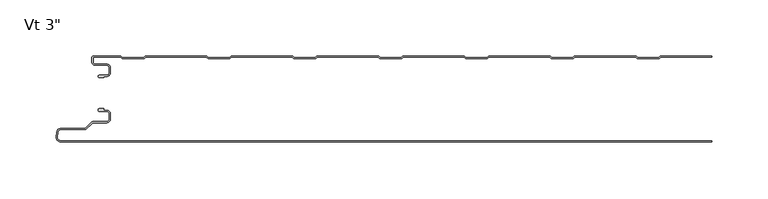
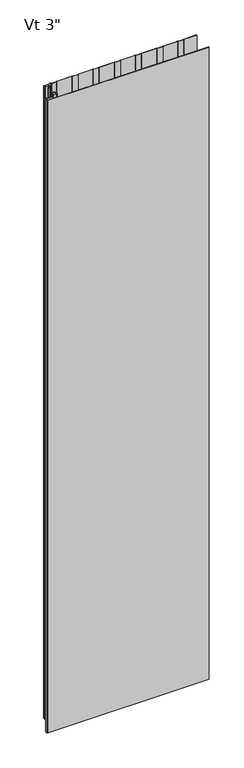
"""IFC4 building model written with IfcOpenShell, lengths in millimetres: plate geometry."""

from ifc_helpers import new_model, si_unit, point, frame, frame_2d, origin, origin_with_axes, place, context, project, spatial, polyline, circle_curve, trimmed, segment, composite_curve, outline, extrude, source, transform, mapped, element, save
from ifc_brep_helpers import plane_surface, cylinder_surface, revolved_surface, advanced_brep


def plate_29d35a56(model_context):
    return source(origin(), model_context, "Body", "SolidModel", [
        advanced_brep(
        [(-270.768691, -17.0015159, 2400.0), (-271.7686883, -18.0015191, 2400.0), (-270.768691, -19.0015105, 2400.0), (-266.7684874, -19.0015105, 2400.0), (-266.7684874, -18.0015159, 2400.0), (-264.0762776, -18.0015159, 2400.0), (-260.7762819, -14.7015202, 2400.0), (-260.7762819, -10.301529, 2400.0), (-264.0762774, -7.0015335, 2400.0), (-274.4962563, -7.0015335, 2400.0), (-276.2662505, -5.2315393, 2400.0), (-276.2662505, -0.9999916, 2400.0), (-251.7659738, -0.9999916, 2400.0), (-250.3803312, -2.2002307, 2400.0), (-231.0051649, -2.2002307, 2400.0), (-229.619532, -1.0, 2400.0), (-175.5661166, -1.0, 2400.0), (-174.1804836, -2.2002307, 2400.0), (-154.8053173, -2.2002307, 2400.0), (-153.4196844, -1.0, 2400.0), (-99.366269, -1.0, 2400.0), (-97.980636, -2.2002307, 2400.0), (-78.6054697, -2.2002307, 2400.0), (-77.2198368, -1.0, 2400.0), (-23.1664214, -1.0, 2400.0), (-21.7807884, -2.2002307, 2400.0), (-2.4056221, -2.2002307, 2400.0), (-1.0199892, -1.0, 2400.0), (53.0334262, -1.0, 2400.0), (54.4190592, -2.2002307, 2400.0), (73.7942255, -2.2002307, 2400.0), (75.1798584, -1.0, 2400.0), (129.2332738, -1.0, 2400.0), (130.6189068, -2.2002307, 2400.0), (149.9940731, -2.2002307, 2400.0), (151.379706, -1.0, 2400.0), (205.4331214, -1.0, 2400.0), (206.8187544, -2.2002307, 2400.0), (226.1939207, -2.2002307, 2400.0), (227.5795536, -1.0, 2400.0), (272.7999998, -1.0, 2400.0), (272.7999998, 0.0, 2400.0), (227.7287048, 0.0, 2400.0), (226.8120879, -0.3417885, 2400.0), (225.8210403, -1.2002307, 2400.0), (207.1916348, -1.2002307, 2400.0), (206.2005872, -0.3417885, 2400.0), (205.2839703, 0.0, 2400.0), (151.5288572, 0.0, 2400.0), (150.6122403, -0.3417885, 2400.0), (149.6211927, -1.2002307, 2400.0), (130.9917872, -1.2002307, 2400.0), (130.0007396, -0.3417885, 2400.0), (129.0841227, 0.0, 2400.0), (75.3290096, 0.0, 2400.0), (74.4123927, -0.3417885, 2400.0), (73.4213451, -1.2002307, 2400.0), (54.7919396, -1.2002307, 2400.0), (53.800892, -0.3417885, 2400.0), (52.8842751, 0.0, 2400.0), (-0.870838, 0.0, 2400.0), (-1.7874549, -0.3417885, 2400.0), (-2.7785025, -1.2002307, 2400.0), (-21.407908, -1.2002307, 2400.0), (-22.3989556, -0.3417885, 2400.0), (-23.3155725, 0.0, 2400.0), (-77.0706856, 0.0, 2400.0), (-77.9873025, -0.3417885, 2400.0), (-78.9783501, -1.2002307, 2400.0), (-97.6077556, -1.2002307, 2400.0), (-98.5988032, -0.3417885, 2400.0), (-99.5154201, 0.0, 2400.0), (-153.2705332, 0.0, 2400.0), (-154.1871501, -0.3417885, 2400.0), (-155.1781977, -1.2002307, 2400.0), (-173.8076032, -1.2002307, 2400.0), (-174.7986508, -0.3417885, 2400.0), (-175.7152677, 0.0, 2400.0), (-229.4703808, 0.0, 2400.0), (-230.3869977, -0.3417885, 2400.0), (-231.3780453, -1.2002307, 2400.0), (-250.0074508, -1.2002307, 2400.0), (-250.9984984, -0.3417885, 2400.0), (-251.9152067, 0.0, 2400.0), (-275.8662543, 8.4e-06, 2400.0), (-277.2662505, -1.3999878, 2400.0), (-277.2662505, -5.2315393, 2400.0), (-274.4962563, -8.0015335, 2400.0), (-264.0762774, -8.0015335, 2400.0), (-261.7762819, -10.301529, 2400.0), (-261.7762819, -14.7015202, 2400.0), (-264.0762776, -17.0015159, 2400.0), (-270.768691, -17.0015159, 0.0), (-264.0762776, -17.0015159, 0.0), (-261.7762819, -14.7015202, 0.0), (-261.7762819, -10.301529, 0.0), (-264.0762774, -8.0015335, 0.0), (-274.4962563, -8.0015335, 0.0), (-277.2662505, -5.2315393, 0.0), (-277.2662505, -1.3999878, 0.0), (-275.8662543, 8.4e-06, 0.0), (-251.9151153, 8.4e-06, 0.0), (-250.9984984, -0.3417885, 0.0), (-250.0074508, -1.2002307, 0.0), (-231.3780453, -1.2002307, 0.0), (-230.3869977, -0.3417885, 0.0), (-229.4703808, 0.0, 0.0), (-175.7152677, 0.0, 0.0), (-174.7986508, -0.3417885, 0.0), (-173.8076032, -1.2002307, 0.0), (-155.1781977, -1.2002307, 0.0), (-154.1871501, -0.3417885, 0.0), (-153.2705332, 0.0, 0.0), (-99.5154201, 0.0, 0.0), (-98.5988032, -0.3417885, 0.0), (-97.6077556, -1.2002307, 0.0), (-78.9783501, -1.2002307, 0.0), (-77.9873025, -0.3417885, 0.0), (-77.0706856, 0.0, 0.0), (-23.3155725, 0.0, 0.0), (-22.3989556, -0.3417885, 0.0), (-21.407908, -1.2002307, 0.0), (-2.7785025, -1.2002307, 0.0), (-1.7874549, -0.3417885, 0.0), (-0.870838, 0.0, 0.0), (52.8842751, 0.0, 0.0), (53.800892, -0.3417885, 0.0), (54.7919396, -1.2002307, 0.0), (73.4213451, -1.2002307, 0.0), (74.4123927, -0.3417885, 0.0), (75.3290096, 0.0, 0.0), (129.0841227, 0.0, 0.0), (130.0007396, -0.3417885, 0.0), (130.9917872, -1.2002307, 0.0), (149.6211927, -1.2002307, 0.0), (150.6122403, -0.3417885, 0.0), (151.5288572, 0.0, 0.0), (205.2839703, 0.0, 0.0), (206.2005872, -0.3417885, 0.0), (207.1916348, -1.2002307, 0.0), (225.8210403, -1.2002307, 0.0), (226.8120879, -0.3417885, 0.0), (227.7287048, 0.0, 0.0), (272.7999998, 0.0, 0.0), (272.7999998, -1.0, 0.0), (227.5795536, -1.0, 0.0), (226.1939207, -2.2002307, 0.0), (206.8187544, -2.2002307, 0.0), (205.4331214, -1.0, 0.0), (151.379706, -1.0, 0.0), (149.9940731, -2.2002307, 0.0), (130.6189068, -2.2002307, 0.0), (129.2332738, -1.0, 0.0), (75.1798584, -1.0, 0.0), (73.7942255, -2.2002307, 0.0), (54.4190592, -2.2002307, 0.0), (53.0334262, -1.0, 0.0), (-1.0199892, -1.0, 0.0), (-2.4056221, -2.2002307, 0.0), (-21.7807884, -2.2002307, 0.0), (-23.1664214, -1.0, 0.0), (-77.2198368, -1.0, 0.0), (-78.6054697, -2.2002307, 0.0), (-97.980636, -2.2002307, 0.0), (-99.366269, -1.0, 0.0), (-153.4196844, -1.0, 0.0), (-154.8053173, -2.2002307, 0.0), (-174.1804836, -2.2002307, 0.0), (-175.5661166, -1.0, 0.0), (-229.619532, -1.0, 0.0), (-231.0051649, -2.2002307, 0.0), (-250.3803312, -2.2002307, 0.0), (-251.7659738, -0.9999916, 0.0), (-276.2662505, -0.9999916, 0.0), (-276.2662505, -5.2315393, 0.0), (-274.4962563, -7.0015335, 0.0), (-264.0762774, -7.0015335, 0.0), (-260.7762819, -10.301529, 0.0), (-260.7762819, -14.7015202, 0.0), (-264.0762776, -18.0015159, 0.0), (-266.7684874, -18.0015159, 0.0), (-266.7684874, -19.0015105, 0.0), (-270.768691, -19.0015105, 0.0), (-271.7686882, -18.0015192, 0.0)],
        [
            (0, 1, circle_curve(frame((-270.768691, -18.0015132, 2400.0), z_axis=(0.0, 0.0, 1.0), x_axis=(1.0, 0.0, 0.0)), 0.9999973)),
            (1, 2, circle_curve(frame((-270.768691, -18.0015133, 2400.0), z_axis=(0.0, 0.0, 1.0), x_axis=(1.0, 0.0, 0.0)), 0.9999972)),
            (2, 3),
            (3, 4),
            (4, 5),
            (5, 6, circle_curve(frame((-264.0762776, -14.7015202, 2400.0), z_axis=(0.0, 0.0, 1.0), x_axis=(1.0, 0.0, 0.0)), 3.2999957)),
            (6, 7),
            (7, 8, circle_curve(frame((-264.0762774, -10.301529, 2400.0), z_axis=(0.0, 0.0, 1.0), x_axis=(1.0, 0.0, 0.0)), 3.2999955)),
            (8, 9),
            (9, 10, circle_curve(frame((-274.4962563, -5.2315393, 2400.0), z_axis=(0.0, 0.0, -1.0), x_axis=(1.0, 0.0, 0.0)), 1.7699942)),
            (10, 11),
            (11, 12),
            (12, 13),
            (13, 14),
            (14, 15),
            (15, 16),
            (16, 17),
            (17, 18),
            (18, 19),
            (19, 20),
            (20, 21),
            (21, 22),
            (22, 23),
            (23, 24),
            (24, 25),
            (25, 26),
            (26, 27),
            (27, 28),
            (28, 29),
            (29, 30),
            (30, 31),
            (31, 32),
            (32, 33),
            (33, 34),
            (34, 35),
            (35, 36),
            (36, 37),
            (37, 38),
            (38, 39),
            (39, 40),
            (40, 41),
            (41, 42),
            (42, 43, circle_curve(frame((227.7287048, -1.3999972, 2400.0), z_axis=(0.0, 0.0, 1.0), x_axis=(1.0, 0.0, 0.0)), 1.3999972)),
            (43, 44),
            (44, 45),
            (45, 46),
            (46, 47, circle_curve(frame((205.2839703, -1.3999972, 2400.0), z_axis=(0.0, 0.0, 1.0), x_axis=(1.0, 0.0, 0.0)), 1.3999972)),
            (47, 48),
            (48, 49, circle_curve(frame((151.5288572, -1.3999972, 2400.0), z_axis=(0.0, 0.0, 1.0), x_axis=(1.0, 0.0, 0.0)), 1.3999972)),
            (49, 50),
            (50, 51),
            (51, 52),
            (52, 53, circle_curve(frame((129.0841227, -1.3999972, 2400.0), z_axis=(0.0, 0.0, 1.0), x_axis=(1.0, 0.0, 0.0)), 1.3999972)),
            (53, 54),
            (54, 55, circle_curve(frame((75.3290096, -1.3999972, 2400.0), z_axis=(0.0, 0.0, 1.0), x_axis=(1.0, 0.0, 0.0)), 1.3999972)),
            (55, 56),
            (56, 57),
            (57, 58),
            (58, 59, circle_curve(frame((52.8842751, -1.3999972, 2400.0), z_axis=(0.0, 0.0, 1.0), x_axis=(1.0, 0.0, 0.0)), 1.3999972)),
            (59, 60),
            (60, 61, circle_curve(frame((-0.870838, -1.3999972, 2400.0), z_axis=(0.0, 0.0, 1.0), x_axis=(1.0, 0.0, 0.0)), 1.3999972)),
            (61, 62),
            (62, 63),
            (63, 64),
            (64, 65, circle_curve(frame((-23.3155725, -1.3999972, 2400.0), z_axis=(0.0, 0.0, 1.0), x_axis=(1.0, 0.0, 0.0)), 1.3999972)),
            (65, 66),
            (66, 67, circle_curve(frame((-77.0706856, -1.3999972, 2400.0), z_axis=(0.0, 0.0, 1.0), x_axis=(1.0, 0.0, 0.0)), 1.3999972)),
            (67, 68),
            (68, 69),
            (69, 70),
            (70, 71, circle_curve(frame((-99.5154201, -1.3999972, 2400.0), z_axis=(0.0, 0.0, 1.0), x_axis=(1.0, 0.0, 0.0)), 1.3999972)),
            (71, 72),
            (72, 73, circle_curve(frame((-153.2705332, -1.3999972, 2400.0), z_axis=(0.0, 0.0, 1.0), x_axis=(1.0, 0.0, 0.0)), 1.3999972)),
            (73, 74),
            (74, 75),
            (75, 76),
            (76, 77, circle_curve(frame((-175.7152677, -1.3999972, 2400.0), z_axis=(0.0, 0.0, 1.0), x_axis=(1.0, 0.0, 0.0)), 1.3999972)),
            (77, 78),
            (78, 79, circle_curve(frame((-229.4703808, -1.3999972, 2400.0), z_axis=(0.0, 0.0, 1.0), x_axis=(1.0, 0.0, 0.0)), 1.3999972)),
            (79, 80),
            (80, 81),
            (81, 82),
            (82, 83, circle_curve(frame((-251.9151153, -1.3999972, 2400.0), z_axis=(0.0, 0.0, 1.0), x_axis=(1.0, 0.0, 0.0)), 1.3999972)),
            (83, 84),
            (84, 85, circle_curve(frame((-275.8662543, -1.3999878, 2400.0), z_axis=(0.0, 0.0, 1.0), x_axis=(1.0, 0.0, 0.0)), 1.3999962)),
            (85, 86),
            (86, 87, circle_curve(frame((-274.4962563, -5.2315393, 2400.0), z_axis=(0.0, 0.0, 1.0), x_axis=(1.0, 0.0, 0.0)), 2.7699942)),
            (87, 88),
            (88, 89, circle_curve(frame((-264.0762774, -10.301529, 2400.0), z_axis=(0.0, 0.0, -1.0), x_axis=(1.0, 0.0, 0.0)), 2.2999955)),
            (89, 90),
            (90, 91, circle_curve(frame((-264.0762776, -14.7015202, 2400.0), z_axis=(0.0, 0.0, -1.0), x_axis=(1.0, 0.0, 0.0)), 2.2999957)),
            (91, 0),
            (92, 93),
            (93, 94, circle_curve(frame((-264.0762776, -14.7015202, 0.0), z_axis=(0.0, 0.0, 1.0), x_axis=(1.0, 0.0, 0.0)), 2.2999957)),
            (94, 95),
            (95, 96, circle_curve(frame((-264.0762774, -10.301529, 0.0), z_axis=(0.0, 0.0, 1.0), x_axis=(1.0, 0.0, 0.0)), 2.2999955)),
            (96, 97),
            (97, 98, circle_curve(frame((-274.4962563, -5.2315393, 0.0), z_axis=(0.0, 0.0, -1.0), x_axis=(1.0, 0.0, 0.0)), 2.7699942)),
            (98, 99),
            (99, 100, circle_curve(frame((-275.8662543, -1.3999878, 0.0), z_axis=(0.0, 0.0, -1.0), x_axis=(1.0, 0.0, 0.0)), 1.3999962)),
            (100, 101),
            (101, 102, circle_curve(frame((-251.9151153, -1.3999972, 0.0), z_axis=(0.0, 0.0, -1.0), x_axis=(1.0, 0.0, 0.0)), 1.3999972)),
            (102, 103),
            (103, 104),
            (104, 105),
            (105, 106, circle_curve(frame((-229.4703808, -1.3999972, 0.0), z_axis=(0.0, 0.0, -1.0), x_axis=(1.0, 0.0, 0.0)), 1.3999972)),
            (106, 107),
            (107, 108, circle_curve(frame((-175.7152677, -1.3999972, 0.0), z_axis=(0.0, 0.0, -1.0), x_axis=(1.0, 0.0, 0.0)), 1.3999972)),
            (108, 109),
            (109, 110),
            (110, 111),
            (111, 112, circle_curve(frame((-153.2705332, -1.3999972, 0.0), z_axis=(0.0, 0.0, -1.0), x_axis=(1.0, 0.0, 0.0)), 1.3999972)),
            (112, 113),
            (113, 114, circle_curve(frame((-99.5154201, -1.3999972, 0.0), z_axis=(0.0, 0.0, -1.0), x_axis=(1.0, 0.0, 0.0)), 1.3999972)),
            (114, 115),
            (115, 116),
            (116, 117),
            (117, 118, circle_curve(frame((-77.0706856, -1.3999972, 0.0), z_axis=(0.0, 0.0, -1.0), x_axis=(1.0, 0.0, 0.0)), 1.3999972)),
            (118, 119),
            (119, 120, circle_curve(frame((-23.3155725, -1.3999972, 0.0), z_axis=(0.0, 0.0, -1.0), x_axis=(1.0, 0.0, 0.0)), 1.3999972)),
            (120, 121),
            (121, 122),
            (122, 123),
            (123, 124, circle_curve(frame((-0.870838, -1.3999972, 0.0), z_axis=(0.0, 0.0, -1.0), x_axis=(1.0, 0.0, 0.0)), 1.3999972)),
            (124, 125),
            (125, 126, circle_curve(frame((52.8842751, -1.3999972, 0.0), z_axis=(0.0, 0.0, -1.0), x_axis=(1.0, 0.0, 0.0)), 1.3999972)),
            (126, 127),
            (127, 128),
            (128, 129),
            (129, 130, circle_curve(frame((75.3290096, -1.3999972, 0.0), z_axis=(0.0, 0.0, -1.0), x_axis=(1.0, 0.0, 0.0)), 1.3999972)),
            (130, 131),
            (131, 132, circle_curve(frame((129.0841227, -1.3999972, 0.0), z_axis=(0.0, 0.0, -1.0), x_axis=(1.0, 0.0, 0.0)), 1.3999972)),
            (132, 133),
            (133, 134),
            (134, 135),
            (135, 136, circle_curve(frame((151.5288572, -1.3999972, 0.0), z_axis=(0.0, 0.0, -1.0), x_axis=(1.0, 0.0, 0.0)), 1.3999972)),
            (136, 137),
            (137, 138, circle_curve(frame((205.2839703, -1.3999972, 0.0), z_axis=(0.0, 0.0, -1.0), x_axis=(1.0, 0.0, 0.0)), 1.3999972)),
            (138, 139),
            (139, 140),
            (140, 141),
            (141, 142, circle_curve(frame((227.7287048, -1.3999972, 0.0), z_axis=(0.0, 0.0, -1.0), x_axis=(1.0, 0.0, 0.0)), 1.3999972)),
            (142, 143),
            (143, 144),
            (144, 145),
            (145, 146),
            (146, 147),
            (147, 148),
            (148, 149),
            (149, 150),
            (150, 151),
            (151, 152),
            (152, 153),
            (153, 154),
            (154, 155),
            (155, 156),
            (156, 157),
            (157, 158),
            (158, 159),
            (159, 160),
            (160, 161),
            (161, 162),
            (162, 163),
            (163, 164),
            (164, 165),
            (165, 166),
            (166, 167),
            (167, 168),
            (168, 169),
            (169, 170),
            (170, 171),
            (171, 172),
            (172, 173),
            (173, 174),
            (174, 175, circle_curve(frame((-274.4962563, -5.2315393, 0.0), z_axis=(0.0, 0.0, 1.0), x_axis=(1.0, 0.0, 0.0)), 1.7699942)),
            (175, 176),
            (176, 177, circle_curve(frame((-264.0762774, -10.301529, 0.0), z_axis=(0.0, 0.0, -1.0), x_axis=(1.0, 0.0, 0.0)), 3.2999955)),
            (177, 178),
            (178, 179, circle_curve(frame((-264.0762776, -14.7015202, 0.0), z_axis=(0.0, 0.0, -1.0), x_axis=(1.0, 0.0, 0.0)), 3.2999957)),
            (179, 180),
            (180, 181),
            (181, 182),
            (182, 183, circle_curve(frame((-270.768691, -18.0015133, 0.0), z_axis=(0.0, 0.0, -1.0), x_axis=(1.0, 0.0, 0.0)), 0.9999972)),
            (183, 92, circle_curve(frame((-270.768691, -18.0015132, 0.0), z_axis=(0.0, 0.0, -1.0), x_axis=(1.0, 0.0, 0.0)), 0.9999973)),
            (91, 93),
            (92, 0),
            (90, 94),
            (89, 95),
            (88, 96),
            (87, 97),
            (86, 98),
            (85, 99),
            (84, 100),
            (83, 101),
            (10, 174),
            (173, 11),
            (9, 175),
            (8, 176),
            (7, 177),
            (6, 178),
            (5, 179),
            (4, 180),
            (3, 181),
            (2, 182),
            (1, 183),
            (40, 144),
            (143, 41),
            (82, 102),
            (81, 103),
            (80, 104),
            (79, 105),
            (78, 106),
            (77, 107),
            (76, 108),
            (75, 109),
            (74, 110),
            (73, 111),
            (72, 112),
            (71, 113),
            (70, 114),
            (69, 115),
            (68, 116),
            (67, 117),
            (66, 118),
            (65, 119),
            (64, 120),
            (63, 121),
            (62, 122),
            (61, 123),
            (60, 124),
            (59, 125),
            (58, 126),
            (57, 127),
            (56, 128),
            (55, 129),
            (54, 130),
            (53, 131),
            (52, 132),
            (51, 133),
            (50, 134),
            (49, 135),
            (48, 136),
            (47, 137),
            (46, 138),
            (45, 139),
            (44, 140),
            (43, 141),
            (42, 142),
            (39, 145),
            (38, 146),
            (37, 147),
            (36, 148),
            (35, 149),
            (34, 150),
            (33, 151),
            (32, 152),
            (31, 153),
            (30, 154),
            (29, 155),
            (28, 156),
            (27, 157),
            (26, 158),
            (25, 159),
            (24, 160),
            (23, 161),
            (22, 162),
            (21, 163),
            (20, 164),
            (19, 165),
            (18, 166),
            (17, 167),
            (16, 168),
            (15, 169),
            (14, 170),
            (13, 171),
            (12, 172),
        ],
        [
            plane_surface(frame((184.4000002, 0.0, 2400.0), z_axis=(0.0, 0.0, 1.0), x_axis=(0.0, 1.0, 0.0))),
            plane_surface(frame((184.4000002, 0.0, 0.0), z_axis=(0.0, 0.0, -1.0), x_axis=(0.0, 1.0, 0.0))),
            plane_surface(frame((-270.768691, -17.0015159, 2400.0), z_axis=(0.0, 1.0, 0.0), x_axis=(0.0, 0.0, -1.0))),
            revolved_surface(polyline([(-261.7762819, -14.7015202, 0.0), (-261.7762819, -14.7015202, 2400.0)]), (-264.0762776, -14.7015202, 2400.0), (0.0, 0.0, -1.0)),
            plane_surface(frame((-261.7762819, -14.7015202, 2400.0), z_axis=(-1.0, 0.0, 0.0), x_axis=(0.0, 0.0, -1.0))),
            revolved_surface(polyline([(-261.77628189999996, -10.301529, 0.0), (-261.77628189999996, -10.301529, 2400.0)]), (-264.0762774, -10.301529, 2400.0), (0.0, 0.0, -1.0)),
            plane_surface(frame((-264.0762774, -8.0015335, 2400.0), z_axis=(0.0, -1.0, 0.0), x_axis=(0.0, 0.0, -1.0))),
            cylinder_surface(frame((-274.4962563, -5.2315393, 2400.0), z_axis=(0.0, 0.0, 1.0), x_axis=(1.0, 0.0, 0.0)), 2.7699942),
            plane_surface(frame((-277.2662505, -5.2315393, 2400.0), z_axis=(-1.0, 0.0, 0.0), x_axis=(0.0, 0.0, -1.0))),
            cylinder_surface(frame((-275.8662543, -1.3999878, 2400.0), z_axis=(0.0, 0.0, 1.0), x_axis=(1.0, 0.0, 0.0)), 1.3999962),
            plane_surface(frame((-275.8662543, 8.4e-06, 2400.0), z_axis=(0.0, 1.0, 0.0), x_axis=(0.0, 0.0, -1.0))),
            plane_surface(frame((-276.2662505, -0.9999916, 2400.0), z_axis=(1.0, 0.0, 0.0), x_axis=(0.0, 0.0, -1.0))),
            revolved_surface(polyline([(-272.72626210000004, -5.2315393, 0.0), (-272.72626210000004, -5.2315393, 2400.0)]), (-274.4962563, -5.2315393, 2400.0), (0.0, 0.0, -1.0)),
            plane_surface(frame((-274.4962563, -7.0015335, 2400.0), z_axis=(0.0, 1.0, 0.0), x_axis=(0.0, 0.0, -1.0))),
            cylinder_surface(frame((-264.0762774, -10.301529, 2400.0), z_axis=(0.0, 0.0, 1.0), x_axis=(1.0, 0.0, 0.0)), 3.2999955),
            plane_surface(frame((-260.7762819, -10.301529, 2400.0), z_axis=(1.0, 0.0, 0.0), x_axis=(0.0, 0.0, -1.0))),
            cylinder_surface(frame((-264.0762776, -14.7015202, 2400.0), z_axis=(0.0, 0.0, 1.0), x_axis=(1.0, 0.0, 0.0)), 3.2999957),
            plane_surface(frame((-264.0762776, -18.0015159, 2400.0), z_axis=(0.0, -1.0, 0.0), x_axis=(0.0, 0.0, -1.0))),
            plane_surface(frame((-266.7684874, -18.0015159, 2400.0), z_axis=(1.0, 0.0, 0.0), x_axis=(0.0, 0.0, -1.0))),
            plane_surface(frame((-266.7684874, -19.0015105, 2400.0), z_axis=(0.0, -1.0, 0.0), x_axis=(0.0, 0.0, -1.0))),
            cylinder_surface(frame((-270.768691, -18.0015133, 2400.0), z_axis=(0.0, 0.0, 1.0), x_axis=(1.0, 0.0, 0.0)), 0.9999972),
            cylinder_surface(frame((-270.768691, -18.0015132, 2400.0), z_axis=(0.0, 0.0, 1.0), x_axis=(1.0, 0.0, 0.0)), 0.9999973),
            plane_surface(frame((272.7999998, -86.2, 2400.0), z_axis=(1.0, 0.0, 0.0), x_axis=(0.0, 0.0, -1.0))),
            cylinder_surface(frame((-251.9151153, -1.3999972, 2400.0), z_axis=(0.0, 0.0, 1.0), x_axis=(1.0, 0.0, 0.0)), 1.3999972),
            plane_surface(frame((-250.9984984, -0.3417885, 2400.0), z_axis=(0.6547276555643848, 0.7558648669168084, 0.0), x_axis=(0.0, 0.0, -1.0))),
            plane_surface(frame((-240.6927481, -1.2002307, 2400.0), z_axis=(0.0, 1.0, 0.0), x_axis=(0.0, 0.0, -1.0))),
            plane_surface(frame((-231.3780453, -1.2002307, 2400.0), z_axis=(-0.6547276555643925, 0.7558648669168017, 0.0), x_axis=(0.0, 0.0, -1.0))),
            cylinder_surface(frame((-229.4703808, -1.3999972, 2400.0), z_axis=(0.0, 0.0, 1.0), x_axis=(1.0, 0.0, 0.0)), 1.3999972),
            plane_surface(frame((-229.4703808, 0.0, 2400.0), z_axis=(0.0, 1.0, 0.0), x_axis=(0.0, 0.0, -1.0))),
            cylinder_surface(frame((-175.7152677, -1.3999972, 2400.0), z_axis=(0.0, 0.0, 1.0), x_axis=(1.0, 0.0, 0.0)), 1.3999972),
            plane_surface(frame((-174.7986508, -0.3417885, 2400.0), z_axis=(0.6547276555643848, 0.7558648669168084, 0.0), x_axis=(0.0, 0.0, -1.0))),
            plane_surface(frame((-164.4929005, -1.2002307, 2400.0), z_axis=(0.0, 1.0, 0.0), x_axis=(0.0, 0.0, -1.0))),
            plane_surface(frame((-155.1781977, -1.2002307, 2400.0), z_axis=(-0.6547276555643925, 0.7558648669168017, 0.0), x_axis=(0.0, 0.0, -1.0))),
            cylinder_surface(frame((-153.2705332, -1.3999972, 2400.0), z_axis=(0.0, 0.0, 1.0), x_axis=(1.0, 0.0, 0.0)), 1.3999972),
            plane_surface(frame((-153.2705332, 0.0, 2400.0), z_axis=(0.0, 1.0, 0.0), x_axis=(0.0, 0.0, -1.0))),
            cylinder_surface(frame((-99.5154201, -1.3999972, 2400.0), z_axis=(0.0, 0.0, 1.0), x_axis=(1.0, 0.0, 0.0)), 1.3999972),
            plane_surface(frame((-98.5988032, -0.3417885, 2400.0), z_axis=(0.6547276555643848, 0.7558648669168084, 0.0), x_axis=(0.0, 0.0, -1.0))),
            plane_surface(frame((-88.2930529, -1.2002307, 2400.0), z_axis=(0.0, 1.0, 0.0), x_axis=(0.0, 0.0, -1.0))),
            plane_surface(frame((-78.9783501, -1.2002307, 2400.0), z_axis=(-0.6547276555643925, 0.7558648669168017, 0.0), x_axis=(0.0, 0.0, -1.0))),
            cylinder_surface(frame((-77.0706856, -1.3999972, 2400.0), z_axis=(0.0, 0.0, 1.0), x_axis=(1.0, 0.0, 0.0)), 1.3999972),
            plane_surface(frame((-77.0706856, 0.0, 2400.0), z_axis=(0.0, 1.0, 0.0), x_axis=(0.0, 0.0, -1.0))),
            cylinder_surface(frame((-23.3155725, -1.3999972, 2400.0), z_axis=(0.0, 0.0, 1.0), x_axis=(1.0, 0.0, 0.0)), 1.3999972),
            plane_surface(frame((-22.3989556, -0.3417885, 2400.0), z_axis=(0.6547276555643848, 0.7558648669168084, 0.0), x_axis=(0.0, 0.0, -1.0))),
            plane_surface(frame((-12.0932053, -1.2002307, 2400.0), z_axis=(0.0, 1.0, 0.0), x_axis=(0.0, 0.0, -1.0))),
            plane_surface(frame((-2.7785025, -1.2002307, 2400.0), z_axis=(-0.6547276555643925, 0.7558648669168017, 0.0), x_axis=(0.0, 0.0, -1.0))),
            cylinder_surface(frame((-0.870838, -1.3999972, 2400.0), z_axis=(0.0, 0.0, 1.0), x_axis=(1.0, 0.0, 0.0)), 1.3999972),
            plane_surface(frame((-0.870838, 0.0, 2400.0), z_axis=(0.0, 1.0, 0.0), x_axis=(0.0, 0.0, -1.0))),
            cylinder_surface(frame((52.8842751, -1.3999972, 2400.0), z_axis=(0.0, 0.0, 1.0), x_axis=(1.0, 0.0, 0.0)), 1.3999972),
            plane_surface(frame((53.800892, -0.3417885, 2400.0), z_axis=(0.6547276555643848, 0.7558648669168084, 0.0), x_axis=(0.0, 0.0, -1.0))),
            plane_surface(frame((64.1066423, -1.2002307, 2400.0), z_axis=(0.0, 1.0, 0.0), x_axis=(0.0, 0.0, -1.0))),
            plane_surface(frame((73.4213451, -1.2002307, 2400.0), z_axis=(-0.6547276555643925, 0.7558648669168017, 0.0), x_axis=(0.0, 0.0, -1.0))),
            cylinder_surface(frame((75.3290096, -1.3999972, 2400.0), z_axis=(0.0, 0.0, 1.0), x_axis=(1.0, 0.0, 0.0)), 1.3999972),
            plane_surface(frame((75.3290096, 0.0, 2400.0), z_axis=(0.0, 1.0, 0.0), x_axis=(0.0, 0.0, -1.0))),
            cylinder_surface(frame((129.0841227, -1.3999972, 2400.0), z_axis=(0.0, 0.0, 1.0), x_axis=(1.0, 0.0, 0.0)), 1.3999972),
            plane_surface(frame((130.0007396, -0.3417885, 2400.0), z_axis=(0.6547276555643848, 0.7558648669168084, 0.0), x_axis=(0.0, 0.0, -1.0))),
            plane_surface(frame((140.3064899, -1.2002307, 2400.0), z_axis=(0.0, 1.0, 0.0), x_axis=(0.0, 0.0, -1.0))),
            plane_surface(frame((149.6211927, -1.2002307, 2400.0), z_axis=(-0.6547276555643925, 0.7558648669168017, 0.0), x_axis=(0.0, 0.0, -1.0))),
            cylinder_surface(frame((151.5288572, -1.3999972, 2400.0), z_axis=(0.0, 0.0, 1.0), x_axis=(1.0, 0.0, 0.0)), 1.3999972),
            plane_surface(frame((151.5288572, 0.0, 2400.0), z_axis=(0.0, 1.0, 0.0), x_axis=(0.0, 0.0, -1.0))),
            cylinder_surface(frame((205.2839703, -1.3999972, 2400.0), z_axis=(0.0, 0.0, 1.0), x_axis=(1.0, 0.0, 0.0)), 1.3999972),
            plane_surface(frame((206.2005872, -0.3417885, 2400.0), z_axis=(0.6547276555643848, 0.7558648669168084, 0.0), x_axis=(0.0, 0.0, -1.0))),
            plane_surface(frame((216.5063375, -1.2002307, 2400.0), z_axis=(0.0, 1.0, 0.0), x_axis=(0.0, 0.0, -1.0))),
            plane_surface(frame((225.8210403, -1.2002307, 2400.0), z_axis=(-0.6547276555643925, 0.7558648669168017, 0.0), x_axis=(0.0, 0.0, -1.0))),
            cylinder_surface(frame((227.7287048, -1.3999972, 2400.0), z_axis=(0.0, 0.0, 1.0), x_axis=(1.0, 0.0, 0.0)), 1.3999972),
            plane_surface(frame((227.7287048, 0.0, 2400.0), z_axis=(0.0, 1.0, 0.0), x_axis=(0.0, 0.0, -1.0))),
            plane_surface(frame((281.632969, -1.0, 2400.0), z_axis=(0.0, -1.0, 0.0), x_axis=(0.0, 0.0, -1.0))),
            plane_surface(frame((227.5795536, -1.0, 2400.0), z_axis=(0.6547276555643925, -0.7558648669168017, 0.0), x_axis=(0.0, 0.0, -1.0))),
            plane_surface(frame((226.1939207, -2.2002307, 2400.0), z_axis=(0.0, -1.0, 0.0), x_axis=(0.0, 0.0, -1.0))),
            plane_surface(frame((206.8187544, -2.2002307, 2400.0), z_axis=(-0.6547276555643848, -0.7558648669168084, 0.0), x_axis=(0.0, 0.0, -1.0))),
            plane_surface(frame((205.4331214, -1.0, 2400.0), z_axis=(0.0, -1.0, 0.0), x_axis=(0.0, 0.0, -1.0))),
            plane_surface(frame((151.379706, -1.0, 2400.0), z_axis=(0.6547276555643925, -0.7558648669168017, 0.0), x_axis=(0.0, 0.0, -1.0))),
            plane_surface(frame((149.9940731, -2.2002307, 2400.0), z_axis=(0.0, -1.0, 0.0), x_axis=(0.0, 0.0, -1.0))),
            plane_surface(frame((130.6189068, -2.2002307, 2400.0), z_axis=(-0.6547276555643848, -0.7558648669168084, 0.0), x_axis=(0.0, 0.0, -1.0))),
            plane_surface(frame((129.2332738, -1.0, 2400.0), z_axis=(0.0, -1.0, 0.0), x_axis=(0.0, 0.0, -1.0))),
            plane_surface(frame((75.1798584, -1.0, 2400.0), z_axis=(0.6547276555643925, -0.7558648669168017, 0.0), x_axis=(0.0, 0.0, -1.0))),
            plane_surface(frame((73.7942255, -2.2002307, 2400.0), z_axis=(0.0, -1.0, 0.0), x_axis=(0.0, 0.0, -1.0))),
            plane_surface(frame((54.4190592, -2.2002307, 2400.0), z_axis=(-0.6547276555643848, -0.7558648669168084, 0.0), x_axis=(0.0, 0.0, -1.0))),
            plane_surface(frame((53.0334262, -1.0, 2400.0), z_axis=(0.0, -1.0, 0.0), x_axis=(0.0, 0.0, -1.0))),
            plane_surface(frame((-1.0199892, -1.0, 2400.0), z_axis=(0.6547276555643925, -0.7558648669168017, 0.0), x_axis=(0.0, 0.0, -1.0))),
            plane_surface(frame((-2.4056221, -2.2002307, 2400.0), z_axis=(0.0, -1.0, 0.0), x_axis=(0.0, 0.0, -1.0))),
            plane_surface(frame((-21.7807884, -2.2002307, 2400.0), z_axis=(-0.6547276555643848, -0.7558648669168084, 0.0), x_axis=(0.0, 0.0, -1.0))),
            plane_surface(frame((-23.1664214, -1.0, 2400.0), z_axis=(0.0, -1.0, 0.0), x_axis=(0.0, 0.0, -1.0))),
            plane_surface(frame((-77.2198368, -1.0, 2400.0), z_axis=(0.6547276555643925, -0.7558648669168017, 0.0), x_axis=(0.0, 0.0, -1.0))),
            plane_surface(frame((-78.6054697, -2.2002307, 2400.0), z_axis=(0.0, -1.0, 0.0), x_axis=(0.0, 0.0, -1.0))),
            plane_surface(frame((-97.980636, -2.2002307, 2400.0), z_axis=(-0.6547276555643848, -0.7558648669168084, 0.0), x_axis=(0.0, 0.0, -1.0))),
            plane_surface(frame((-99.366269, -1.0, 2400.0), z_axis=(0.0, -1.0, 0.0), x_axis=(0.0, 0.0, -1.0))),
            plane_surface(frame((-153.4196844, -1.0, 2400.0), z_axis=(0.6547276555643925, -0.7558648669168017, 0.0), x_axis=(0.0, 0.0, -1.0))),
            plane_surface(frame((-154.8053173, -2.2002307, 2400.0), z_axis=(0.0, -1.0, 0.0), x_axis=(0.0, 0.0, -1.0))),
            plane_surface(frame((-174.1804836, -2.2002307, 2400.0), z_axis=(-0.6547276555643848, -0.7558648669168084, 0.0), x_axis=(0.0, 0.0, -1.0))),
            plane_surface(frame((-175.5661166, -1.0, 2400.0), z_axis=(0.0, -1.0, 0.0), x_axis=(0.0, 0.0, -1.0))),
            plane_surface(frame((-229.619532, -1.0, 2400.0), z_axis=(0.6547276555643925, -0.7558648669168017, 0.0), x_axis=(0.0, 0.0, -1.0))),
            plane_surface(frame((-231.0051649, -2.2002307, 2400.0), z_axis=(0.0, -1.0, 0.0), x_axis=(0.0, 0.0, -1.0))),
            plane_surface(frame((-250.3803312, -2.2002307, 2400.0), z_axis=(-0.6547276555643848, -0.7558648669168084, 0.0), x_axis=(0.0, 0.0, -1.0))),
            plane_surface(frame((-251.7659738, -0.9999916, 2400.0), z_axis=(0.0, -1.0, 0.0), x_axis=(0.0, 0.0, -1.0))),
        ],
        [
            (0, [[1, 2, 3, 4, 5, 6, 7, 8, 9, 10, 11, 12, 13, 14, 15, 16, 17, 18, 19, 20, 21, 22, 23, 24, 25, 26, 27, 28, 29, 30, 31, 32, 33, 34, 35, 36, 37, 38, 39, 40, 41, 42, 43, 44, 45, 46, 47, 48, 49, 50, 51, 52, 53, 54, 55, 56, 57, 58, 59, 60, 61, 62, 63, 64, 65, 66, 67, 68, 69, 70, 71, 72, 73, 74, 75, 76, 77, 78, 79, 80, 81, 82, 83, 84, 85, 86, 87, 88, 89, 90, 91, 92]]),
            (1, [[93, 94, 95, 96, 97, 98, 99, 100, 101, 102, 103, 104, 105, 106, 107, 108, 109, 110, 111, 112, 113, 114, 115, 116, 117, 118, 119, 120, 121, 122, 123, 124, 125, 126, 127, 128, 129, 130, 131, 132, 133, 134, 135, 136, 137, 138, 139, 140, 141, 142, 143, 144, 145, 146, 147, 148, 149, 150, 151, 152, 153, 154, 155, 156, 157, 158, 159, 160, 161, 162, 163, 164, 165, 166, 167, 168, 169, 170, 171, 172, 173, 174, 175, 176, 177, 178, 179, 180, 181, 182, 183, 184]]),
            (2, [[185, -93, 186, -92]]),
            (3, [[187, -94, -185, -91]]),
            (4, [[188, -95, -187, -90]]),
            (5, [[189, -96, -188, -89]]),
            (6, [[190, -97, -189, -88]]),
            (7, [[191, -98, -190, -87]]),
            (8, [[192, -99, -191, -86]]),
            (9, [[193, -100, -192, -85]]),
            (10, [[194, -101, -193, -84]]),
            (11, [[195, -174, 196, -11]]),
            (12, [[197, -175, -195, -10]]),
            (13, [[198, -176, -197, -9]]),
            (14, [[199, -177, -198, -8]]),
            (15, [[200, -178, -199, -7]]),
            (16, [[201, -179, -200, -6]]),
            (17, [[202, -180, -201, -5]]),
            (18, [[203, -181, -202, -4]]),
            (19, [[204, -182, -203, -3]]),
            (20, [[205, -183, -204, -2]]),
            (21, [[-186, -184, -205, -1]]),
            (22, [[206, -144, 207, -41]]),
            (23, [[208, -102, -194, -83]]),
            (24, [[209, -103, -208, -82]]),
            (25, [[210, -104, -209, -81]]),
            (26, [[211, -105, -210, -80]]),
            (27, [[212, -106, -211, -79]]),
            (28, [[213, -107, -212, -78]]),
            (29, [[214, -108, -213, -77]]),
            (30, [[215, -109, -214, -76]]),
            (31, [[216, -110, -215, -75]]),
            (32, [[217, -111, -216, -74]]),
            (33, [[218, -112, -217, -73]]),
            (34, [[219, -113, -218, -72]]),
            (35, [[220, -114, -219, -71]]),
            (36, [[221, -115, -220, -70]]),
            (37, [[222, -116, -221, -69]]),
            (38, [[223, -117, -222, -68]]),
            (39, [[224, -118, -223, -67]]),
            (40, [[225, -119, -224, -66]]),
            (41, [[226, -120, -225, -65]]),
            (42, [[227, -121, -226, -64]]),
            (43, [[228, -122, -227, -63]]),
            (44, [[229, -123, -228, -62]]),
            (45, [[230, -124, -229, -61]]),
            (46, [[231, -125, -230, -60]]),
            (47, [[232, -126, -231, -59]]),
            (48, [[233, -127, -232, -58]]),
            (49, [[234, -128, -233, -57]]),
            (50, [[235, -129, -234, -56]]),
            (51, [[236, -130, -235, -55]]),
            (52, [[237, -131, -236, -54]]),
            (53, [[238, -132, -237, -53]]),
            (54, [[239, -133, -238, -52]]),
            (55, [[240, -134, -239, -51]]),
            (56, [[241, -135, -240, -50]]),
            (57, [[242, -136, -241, -49]]),
            (58, [[243, -137, -242, -48]]),
            (59, [[244, -138, -243, -47]]),
            (60, [[245, -139, -244, -46]]),
            (61, [[246, -140, -245, -45]]),
            (62, [[247, -141, -246, -44]]),
            (63, [[248, -142, -247, -43]]),
            (64, [[-42, -207, -143, -248]]),
            (65, [[-145, -206, -40, 249]]),
            (66, [[250, -146, -249, -39]]),
            (67, [[251, -147, -250, -38]]),
            (68, [[252, -148, -251, -37]]),
            (69, [[253, -149, -252, -36]]),
            (70, [[254, -150, -253, -35]]),
            (71, [[255, -151, -254, -34]]),
            (72, [[256, -152, -255, -33]]),
            (73, [[257, -153, -256, -32]]),
            (74, [[258, -154, -257, -31]]),
            (75, [[259, -155, -258, -30]]),
            (76, [[260, -156, -259, -29]]),
            (77, [[261, -157, -260, -28]]),
            (78, [[262, -158, -261, -27]]),
            (79, [[263, -159, -262, -26]]),
            (80, [[264, -160, -263, -25]]),
            (81, [[265, -161, -264, -24]]),
            (82, [[266, -162, -265, -23]]),
            (83, [[267, -163, -266, -22]]),
            (84, [[268, -164, -267, -21]]),
            (85, [[269, -165, -268, -20]]),
            (86, [[270, -166, -269, -19]]),
            (87, [[271, -167, -270, -18]]),
            (88, [[272, -168, -271, -17]]),
            (89, [[273, -169, -272, -16]]),
            (90, [[274, -170, -273, -15]]),
            (91, [[275, -171, -274, -14]]),
            (92, [[276, -172, -275, -13]]),
            (93, [[-196, -173, -276, -12]]),
        ],
    ),
        extrude(outline(composite_curve([segment(polyline([(-308.808759, -72.3184578), (-308.3690674, -67.2944437)]), True, "CONTINUOUS"), segment(trimmed(circle_curve(frame_2d((-304.7198391, -67.9052448)), 3.6999926), [point((-308.3690674, -67.2944437))], [point((-304.7198391, -64.2052522))], False, "CARTESIAN"), True, "CONTINUOUS"), segment(polyline([(-304.7198391, -64.2052522), (-283.5773995, -64.2052522)]), True, "CONTINUOUS"), segment(trimmed(circle_curve(frame_2d((-283.5773995, -62.9052548)), 1.2999974), [point((-283.5773995, -64.2052522))], [point((-282.6581626, -63.8244918))], True, "CARTESIAN"), True, "CONTINUOUS"), segment(polyline([(-282.6581626, -63.8244918), (-277.8297451, -58.9960743)]), True, "CONTINUOUS"), segment(trimmed(circle_curve(frame_2d((-275.9205606, -60.9052588)), 2.6999946), [point((-277.8297451, -58.9960743))], [point((-275.9205606, -58.2052642))], False, "CARTESIAN"), True, "CONTINUOUS"), segment(polyline([(-275.9205606, -58.2052642), (-264.1096715, -58.2052642)]), True, "CONTINUOUS"), segment(trimmed(circle_curve(frame_2d((-264.1096715, -55.8552689)), 2.3499953), [point((-264.1096715, -58.2052642))], [point((-261.7596762, -55.8552689))], True, "CARTESIAN"), True, "CONTINUOUS"), segment(polyline([(-261.7596762, -55.8552689), (-261.7596762, -51.4552777)]), True, "CONTINUOUS"), segment(trimmed(circle_curve(frame_2d((-264.1096715, -51.4552777)), 2.3499953), [point((-261.7596762, -51.4552777))], [point((-264.1096715, -49.1052824))], True, "CARTESIAN"), True, "CONTINUOUS"), segment(polyline([(-264.1096715, -49.1052824), (-270.6289777, -49.1052824)]), True, "CONTINUOUS"), segment(trimmed(circle_curve(frame_2d((-270.5686906, -47.9068002)), 1.1999976), [point((-270.6289777, -49.1052824))], [point((-271.7683, -47.8762782))], False, "CARTESIAN"), True, "CONTINUOUS"), segment(trimmed(circle_curve(frame_2d((-270.5686906, -47.9068002)), 1.1999976), [point((-271.7683, -47.8762782))], [point((-270.567176, -46.7068035))], False, "CARTESIAN"), True, "CONTINUOUS"), segment(polyline([(-270.567176, -46.7068035), (-266.8087826, -46.7068035), (-266.8087826, -48.1052824), (-264.1096715, -48.1052824)]), True, "CONTINUOUS"), segment(trimmed(circle_curve(frame_2d((-264.1096715, -51.4552777)), 3.3499953), [point((-264.1096715, -48.1052824))], [point((-260.7596762, -51.4552777))], False, "CARTESIAN"), True, "CONTINUOUS"), segment(polyline([(-260.7596762, -51.4552777), (-260.7596762, -55.8552689)]), True, "CONTINUOUS"), segment(trimmed(circle_curve(frame_2d((-264.1096715, -55.8552689)), 3.3499953), [point((-260.7596762, -55.8552689))], [point((-264.1096715, -59.2052642))], False, "CARTESIAN"), True, "CONTINUOUS"), segment(polyline([(-264.1096715, -59.2052642), (-275.9205606, -59.2052642)]), True, "CONTINUOUS"), segment(trimmed(circle_curve(frame_2d((-275.9205606, -60.9052588)), 1.6999946), [point((-275.9205606, -59.2052642))], [point((-277.1226383, -59.7031811))], True, "CARTESIAN"), True, "CONTINUOUS"), segment(polyline([(-277.1226383, -59.7031811), (-282.6247094, -65.2052522), (-304.7198391, -65.2052522)]), True, "CONTINUOUS"), segment(trimmed(circle_curve(frame_2d((-304.7198391, -67.9052448)), 2.6999926), [point((-304.7198391, -65.2052522))], [point((-307.3765707, -67.4238542))], True, "CARTESIAN"), True, "CONTINUOUS"), segment(polyline([(-307.3765707, -67.4238542), (-307.8125697, -72.4056751)]), True, "CONTINUOUS"), segment(trimmed(circle_curve(frame_2d((-305.2521175, -72.6297607)), 2.5702393), [point((-307.8125697, -72.4056751))], [point((-305.3094458, -75.1993606))], True, "CARTESIAN"), True, "CONTINUOUS"), segment(polyline([(-305.3094458, -75.1993606), (272.7999998, -75.1993606), (272.7999998, -76.1995979), (-305.2521124, -76.1999675)]), True, "CONTINUOUS"), segment(trimmed(circle_curve(frame_2d((-305.2521147, -72.6297282)), 3.5702393), [point((-305.2521124, -76.1999675))], [point((-308.808759, -72.3184578))], False, "CARTESIAN"), True, "CONTINUOUS")], self_intersect=False)), origin_with_axes(), (0.0, 0.0, 1.0), 2400.0),
    ])


if __name__ == "__main__":
    model = new_model("IFC4")
    model_context = context("Model", 3, world=origin())
    ifc_project = project(units=[si_unit("LENGTHUNIT", "METRE", prefix="MILLI")], contexts=[model_context])
    site = spatial("IfcSite", under=ifc_project)
    building = spatial("IfcBuilding", under=site)
    placement = place(None, origin())
    plate_shape = plate_29d35a56(model_context)
    element("IfcPlate", 1, ObjectType="KIP-36-Karrier-KP-R19-CP-Vt-FL3-8in_SL : Vt 3\"", at=placement, inside=building, context=model_context, shape_type="MappedRepresentation", body=[
        mapped(plate_shape, transform((0.0, 0.0, 0.0), x_axis=(1.0, 0.0, 0.0), y_axis=(0.0, 1.0, 0.0), z_axis=(0.0, 0.0, 1.0))),
    ])
    save(model, "model.ifc")
